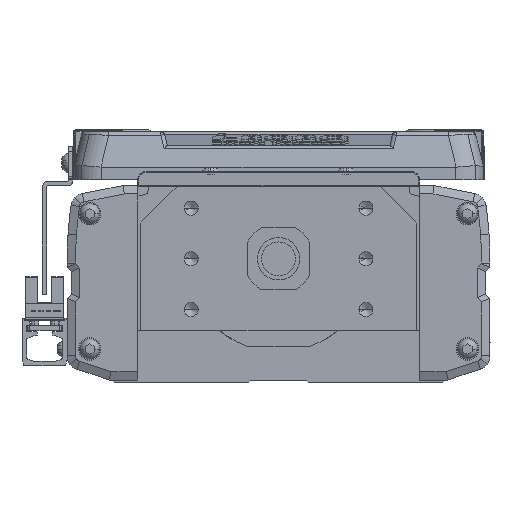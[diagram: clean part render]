
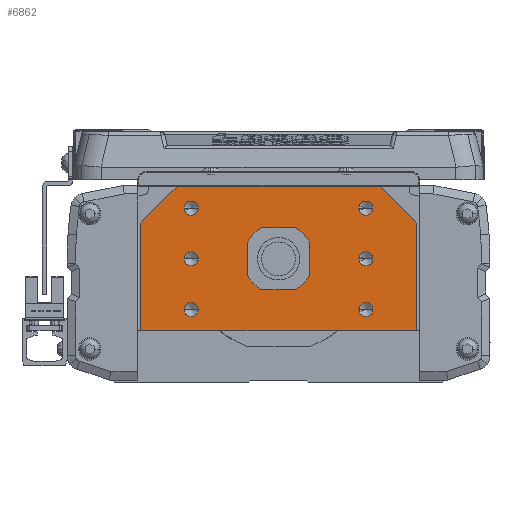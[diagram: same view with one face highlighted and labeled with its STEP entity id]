
A CAD part, left-side view. The second image highlights one B-rep face of the part: STEP entity #6862.
In plain terms, the highlighted planar face has unit normal (-1, 0, 0).
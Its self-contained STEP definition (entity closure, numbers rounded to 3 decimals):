
#6862=ADVANCED_FACE('',(#14042,#14043,#14044,#14045,#14046,#14047,#14048,#14049),#14050,.F.);
#14042=FACE_OUTER_BOUND('',#22708,.T.);
#14043=FACE_BOUND('',#22709,.T.);
#14044=FACE_BOUND('',#22710,.T.);
#14045=FACE_BOUND('',#22711,.T.);
#14046=FACE_BOUND('',#22712,.T.);
#14047=FACE_BOUND('',#22713,.T.);
#14048=FACE_BOUND('',#22714,.T.);
#14049=FACE_BOUND('',#22715,.T.);
#14050=PLANE('',#22716);
#22708=EDGE_LOOP('',(#42306,#42307,#42308,#42309,#42310,#42311,#42312,#42313));
#22709=EDGE_LOOP('',(#42314,#42315));
#22710=EDGE_LOOP('',(#42316,#42317));
#22711=EDGE_LOOP('',(#42318,#42319));
#22712=EDGE_LOOP('',(#42320,#42321));
#22713=EDGE_LOOP('',(#42322,#42323));
#22714=EDGE_LOOP('',(#42324,#42325));
#22715=EDGE_LOOP('',(#42326,#42327));
#22716=AXIS2_PLACEMENT_3D('',#42328,#42329,#42330);
#42306=ORIENTED_EDGE('',*,*,#49872,.F.);
#42307=ORIENTED_EDGE('',*,*,#53147,.F.);
#42308=ORIENTED_EDGE('',*,*,#53098,.F.);
#42309=ORIENTED_EDGE('',*,*,#53119,.F.);
#42310=ORIENTED_EDGE('',*,*,#53410,.F.);
#42311=ORIENTED_EDGE('',*,*,#48053,.F.);
#42312=ORIENTED_EDGE('',*,*,#52994,.F.);
#42313=ORIENTED_EDGE('',*,*,#53411,.F.);
#42314=ORIENTED_EDGE('',*,*,#53412,.T.);
#42315=ORIENTED_EDGE('',*,*,#51477,.T.);
#42316=ORIENTED_EDGE('',*,*,#50727,.T.);
#42317=ORIENTED_EDGE('',*,*,#46176,.T.);
#42318=ORIENTED_EDGE('',*,*,#53413,.T.);
#42319=ORIENTED_EDGE('',*,*,#50815,.T.);
#42320=ORIENTED_EDGE('',*,*,#47533,.T.);
#42321=ORIENTED_EDGE('',*,*,#52545,.T.);
#42322=ORIENTED_EDGE('',*,*,#53414,.T.);
#42323=ORIENTED_EDGE('',*,*,#49669,.T.);
#42324=ORIENTED_EDGE('',*,*,#47145,.T.);
#42325=ORIENTED_EDGE('',*,*,#52036,.T.);
#42326=ORIENTED_EDGE('',*,*,#53415,.F.);
#42327=ORIENTED_EDGE('',*,*,#53063,.F.);
#42328=CARTESIAN_POINT('',(0.,0.275,-2.548));
#42329=DIRECTION('',(1.0,0.,0.));
#42330=DIRECTION('',(0.,1.0,0.));
#46176=EDGE_CURVE('',#55066,#55064,#55067,.T.);
#47145=EDGE_CURVE('',#56759,#56763,#56765,.T.);
#47533=EDGE_CURVE('',#57409,#57411,#57413,.T.);
#48053=EDGE_CURVE('',#58265,#58267,#58268,.T.);
#49669=EDGE_CURVE('',#60850,#60848,#60851,.T.);
#49872=EDGE_CURVE('',#61140,#61141,#61142,.T.);
#50727=EDGE_CURVE('',#55064,#55066,#62385,.T.);
#50815=EDGE_CURVE('',#62504,#62502,#62505,.T.);
#51477=EDGE_CURVE('',#63394,#63392,#63395,.T.);
#52036=EDGE_CURVE('',#56763,#56759,#64097,.T.);
#52545=EDGE_CURVE('',#57411,#57409,#64716,.T.);
#52994=EDGE_CURVE('',#65245,#58265,#65246,.T.);
#53063=EDGE_CURVE('',#65324,#65326,#65327,.F.);
#53098=EDGE_CURVE('',#65366,#65368,#65369,.T.);
#53119=EDGE_CURVE('',#65390,#65366,#65392,.T.);
#53147=EDGE_CURVE('',#65368,#61140,#65420,.T.);
#53410=EDGE_CURVE('',#58267,#65390,#65700,.T.);
#53411=EDGE_CURVE('',#61141,#65245,#65701,.T.);
#53412=EDGE_CURVE('',#63392,#63394,#65702,.T.);
#53413=EDGE_CURVE('',#62502,#62504,#65703,.T.);
#53414=EDGE_CURVE('',#60848,#60850,#65704,.T.);
#53415=EDGE_CURVE('',#65326,#65324,#65705,.F.);
#55064=VERTEX_POINT('',#67847);
#55066=VERTEX_POINT('',#67850);
#55067=CIRCLE('',#67851,2.5);
#56759=VERTEX_POINT('',#70198);
#56763=VERTEX_POINT('',#70203);
#56765=CIRCLE('',#70206,2.5);
#57409=VERTEX_POINT('',#71073);
#57411=VERTEX_POINT('',#71076);
#57413=CIRCLE('',#71079,2.5);
#58265=VERTEX_POINT('',#72372);
#58267=VERTEX_POINT('',#72375);
#58268=LINE('',#72376,#72377);
#60848=VERTEX_POINT('',#75835);
#60850=VERTEX_POINT('',#75838);
#60851=CIRCLE('',#75839,2.5);
#61140=VERTEX_POINT('',#76243);
#61141=VERTEX_POINT('',#76244);
#61142=LINE('',#76245,#76246);
#62385=CIRCLE('',#77926,2.5);
#62502=VERTEX_POINT('',#78082);
#62504=VERTEX_POINT('',#78085);
#62505=CIRCLE('',#78086,2.5);
#63392=VERTEX_POINT('',#79321);
#63394=VERTEX_POINT('',#79324);
#63395=CIRCLE('',#79325,2.5);
#64097=CIRCLE('',#80375,2.5);
#64716=CIRCLE('',#81267,2.5);
#65245=VERTEX_POINT('',#81972);
#65246=LINE('',#81973,#81974);
#65324=VERTEX_POINT('',#82080);
#65326=VERTEX_POINT('',#82083);
#65327=CIRCLE('',#82084,7.5);
#65366=VERTEX_POINT('',#82135);
#65368=VERTEX_POINT('',#82138);
#65369=LINE('',#82139,#82140);
#65390=VERTEX_POINT('',#82169);
#65392=LINE('',#82172,#82173);
#65420=LINE('',#82208,#82209);
#65700=LINE('',#82601,#82602);
#65701=LINE('',#82603,#82604);
#65702=CIRCLE('',#82605,2.5);
#65703=CIRCLE('',#82606,2.5);
#65704=CIRCLE('',#82607,2.5);
#65705=CIRCLE('',#82608,7.5);
#67847=CARTESIAN_POINT('',(0.,-33.5,-18.));
#67850=CARTESIAN_POINT('',(0.,-28.5,-18.));
#67851=AXIS2_PLACEMENT_3D('',#84006,#84007,#84008);
#70198=CARTESIAN_POINT('',(0.,-33.5,0.));
#70203=CARTESIAN_POINT('',(0.,-28.5,0.));
#70206=AXIS2_PLACEMENT_3D('',#85352,#85353,#85354);
#71073=CARTESIAN_POINT('',(0.,-33.5,18.));
#71076=CARTESIAN_POINT('',(0.,-28.5,18.));
#71079=AXIS2_PLACEMENT_3D('',#85862,#85863,#85864);
#72372=CARTESIAN_POINT('',(0.,-49.,12.7));
#72375=CARTESIAN_POINT('',(0.,-49.,-25.));
#72376=CARTESIAN_POINT('',(0.,-49.,-14.));
#72377=VECTOR('',#86562,10.0);
#75835=CARTESIAN_POINT('',(0.,33.5,0.));
#75838=CARTESIAN_POINT('',(0.,28.5,0.));
#75839=AXIS2_PLACEMENT_3D('',#88816,#88817,#88818);
#76243=CARTESIAN_POINT('',(0.,49.,12.7));
#76244=CARTESIAN_POINT('',(0.,36.,25.7));
#76245=CARTESIAN_POINT('',(0.,37.381,24.319));
#76246=VECTOR('',#89060,10.);
#77926=AXIS2_PLACEMENT_3D('',#90152,#90153,#90154);
#78082=CARTESIAN_POINT('',(0.,33.5,18.));
#78085=CARTESIAN_POINT('',(0.,28.5,18.));
#78086=AXIS2_PLACEMENT_3D('',#90267,#90268,#90269);
#79321=CARTESIAN_POINT('',(0.,33.5,-18.));
#79324=CARTESIAN_POINT('',(0.,28.5,-18.));
#79325=AXIS2_PLACEMENT_3D('',#91083,#91084,#91085);
#80375=AXIS2_PLACEMENT_3D('',#91711,#91712,#91713);
#81267=AXIS2_PLACEMENT_3D('',#92238,#92239,#92240);
#81972=CARTESIAN_POINT('',(0.,-36.,25.7));
#81973=CARTESIAN_POINT('',(0.,-37.243,24.457));
#81974=VECTOR('',#92717,10.0);
#82080=CARTESIAN_POINT('',(0.,-7.5,0.));
#82083=CARTESIAN_POINT('',(0.,7.5,0.));
#82084=AXIS2_PLACEMENT_3D('',#92768,#92769,#92770);
#82135=CARTESIAN_POINT('',(0.,48.5,-25.5));
#82138=CARTESIAN_POINT('',(0.,49.,-25.));
#82139=CARTESIAN_POINT('',(0.,48.5,-25.5));
#82140=VECTOR('',#92802,10.0);
#82169=CARTESIAN_POINT('',(0.,-48.5,-25.5));
#82172=CARTESIAN_POINT('',(0.,0.,-25.5));
#82173=VECTOR('',#92815,10.0);
#82208=CARTESIAN_POINT('',(0.,49.,-25.));
#82209=VECTOR('',#92829,10.0);
#82601=CARTESIAN_POINT('',(0.,-49.,-25.));
#82602=VECTOR('',#93016,10.0);
#82603=CARTESIAN_POINT('',(0.,34.5,25.7));
#82604=VECTOR('',#93017,10.0);
#82605=AXIS2_PLACEMENT_3D('',#93018,#93019,#93020);
#82606=AXIS2_PLACEMENT_3D('',#93021,#93022,#93023);
#82607=AXIS2_PLACEMENT_3D('',#93024,#93025,#93026);
#82608=AXIS2_PLACEMENT_3D('',#93027,#93028,#93029);
#84006=CARTESIAN_POINT('',(0.,-31.,-18.));
#84007=DIRECTION('',(1.0,0.,0.));
#84008=DIRECTION('',(0.,-1.0,0.));
#85352=CARTESIAN_POINT('',(0.,-31.,0.));
#85353=DIRECTION('',(1.0,0.,0.));
#85354=DIRECTION('',(0.,-1.0,0.));
#85862=CARTESIAN_POINT('',(0.,-31.,18.));
#85863=DIRECTION('',(1.0,0.,0.));
#85864=DIRECTION('',(0.,-1.0,0.));
#86562=DIRECTION('',(0.,0.,-1.0));
#88816=CARTESIAN_POINT('',(0.,31.,0.));
#88817=DIRECTION('',(1.0,0.,0.));
#88818=DIRECTION('',(0.,1.0,0.));
#89060=DIRECTION('',(0.,-0.707,0.707));
#90152=CARTESIAN_POINT('',(0.,-31.,-18.));
#90153=DIRECTION('',(1.0,0.,0.));
#90154=DIRECTION('',(0.,-1.0,0.));
#90267=CARTESIAN_POINT('',(0.,31.,18.));
#90268=DIRECTION('',(1.0,0.,0.));
#90269=DIRECTION('',(0.,1.0,0.));
#91083=CARTESIAN_POINT('',(0.,31.,-18.));
#91084=DIRECTION('',(1.0,0.,0.));
#91085=DIRECTION('',(0.,1.0,0.));
#91711=CARTESIAN_POINT('',(0.,-31.,0.));
#91712=DIRECTION('',(1.0,0.,0.));
#91713=DIRECTION('',(0.,-1.0,0.));
#92238=CARTESIAN_POINT('',(0.,-31.,18.));
#92239=DIRECTION('',(1.0,0.,0.));
#92240=DIRECTION('',(0.,-1.0,0.));
#92717=DIRECTION('',(0.,-0.707,-0.707));
#92768=CARTESIAN_POINT('',(0.,0.,0.));
#92769=DIRECTION('',(1.0,0.,0.));
#92770=DIRECTION('',(0.,-1.0,0.));
#92802=DIRECTION('',(0.,0.707,0.707));
#92815=DIRECTION('',(0.,1.0,0.));
#92829=DIRECTION('',(0.,0.,1.0));
#93016=DIRECTION('',(0.,0.707,-0.707));
#93017=DIRECTION('',(0.,-1.0,0.));
#93018=CARTESIAN_POINT('',(0.,31.,-18.));
#93019=DIRECTION('',(1.0,0.,0.));
#93020=DIRECTION('',(0.,1.0,0.));
#93021=CARTESIAN_POINT('',(0.,31.,18.));
#93022=DIRECTION('',(1.0,0.,0.));
#93023=DIRECTION('',(0.,1.0,0.));
#93024=CARTESIAN_POINT('',(0.,31.,0.));
#93025=DIRECTION('',(1.0,0.,0.));
#93026=DIRECTION('',(0.,1.0,0.));
#93027=CARTESIAN_POINT('',(0.,0.,0.));
#93028=DIRECTION('',(1.0,0.,0.));
#93029=DIRECTION('',(0.,-1.0,0.));
